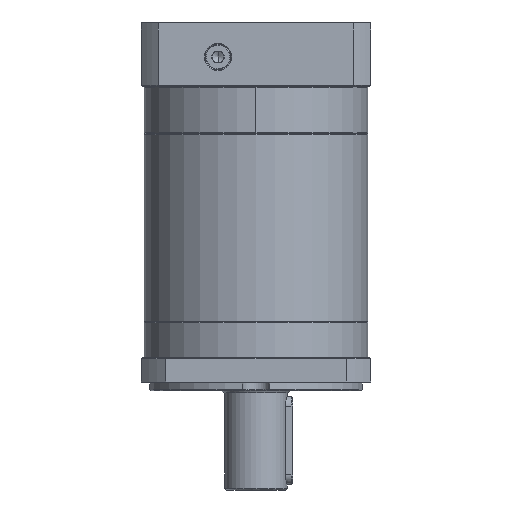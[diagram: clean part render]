
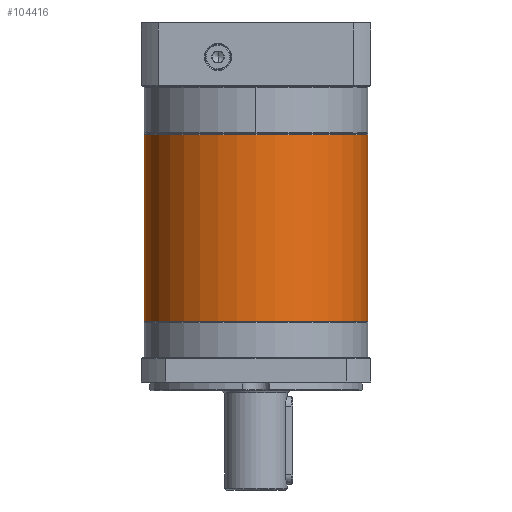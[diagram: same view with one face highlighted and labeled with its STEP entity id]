
A CAD part, front view. The second image highlights one B-rep face of the part: STEP entity #104416.
In plain terms, the highlighted cylindrical face has radius 57.5 mm (diameter 115 mm), a partial arc.
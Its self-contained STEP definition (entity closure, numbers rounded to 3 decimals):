
#1474 = CARTESIAN_POINT ( 'NONE',  ( -32.033, -2.282, 188.502 ) ) ;
#1572 = LINE ( 'NONE', #4935, #107431 ) ;
#3954 = VERTEX_POINT ( 'NONE', #76225 ) ;
#4935 = CARTESIAN_POINT ( 'NONE',  ( -89.533, -2.282, 189.002 ) ) ;
#6534 = DIRECTION ( 'NONE',  ( -1., 0., 0. ) ) ;
#7044 = CARTESIAN_POINT ( 'NONE',  ( -32.033, -2.282, 188.502 ) ) ;
#13953 = ORIENTED_EDGE ( 'NONE', *, *, #130346, .T. ) ;
#16738 = CARTESIAN_POINT ( 'NONE',  ( 25.467, -2.282, 189.002 ) ) ;
#16834 = VERTEX_POINT ( 'NONE', #77995 ) ;
#19181 = VECTOR ( 'NONE', #78531, 1000. ) ;
#25666 = LINE ( 'NONE', #16738, #19181 ) ;
#26885 = DIRECTION ( 'NONE',  ( 0., 0., -1. ) ) ;
#32779 = VERTEX_POINT ( 'NONE', #53929 ) ;
#34393 = EDGE_CURVE ( 'NONE', #16834, #32779, #113226, .T. ) ;
#35408 = AXIS2_PLACEMENT_3D ( 'NONE', #1474, #42259, #82561 ) ;
#40806 = ORIENTED_EDGE ( 'NONE', *, *, #100744, .T. ) ;
#41837 = DIRECTION ( 'NONE',  ( 0., 0., -1. ) ) ;
#42259 = DIRECTION ( 'NONE',  ( 0., 0., -1. ) ) ;
#42265 = DIRECTION ( 'NONE',  ( -1., 0., 0. ) ) ;
#42720 = CARTESIAN_POINT ( 'NONE',  ( -32.033, -2.282, 189.002 ) ) ;
#43065 = CIRCLE ( 'NONE', #70441, 57.5 ) ;
#47402 = DIRECTION ( 'NONE',  ( 0., 0., 1. ) ) ;
#53929 = CARTESIAN_POINT ( 'NONE',  ( -89.533, -2.282, 188.502 ) ) ;
#61021 = FACE_OUTER_BOUND ( 'NONE', #110907, .T. ) ;
#62420 = AXIS2_PLACEMENT_3D ( 'NONE', #42720, #41837, #42265 ) ;
#70353 = VERTEX_POINT ( 'NONE', #112127 ) ;
#70441 = AXIS2_PLACEMENT_3D ( 'NONE', #7044, #119557, #129060 ) ;
#70911 = EDGE_CURVE ( 'NONE', #121170, #70353, #109660, .T. ) ;
#76225 = CARTESIAN_POINT ( 'NONE',  ( 25.467, -2.282, 188.502 ) ) ;
#77995 = CARTESIAN_POINT ( 'NONE',  ( -32.033, -59.782, 188.502 ) ) ;
#78531 = DIRECTION ( 'NONE',  ( 0., 0., -1. ) ) ;
#82432 = AXIS2_PLACEMENT_3D ( 'NONE', #108762, #47402, #6534 ) ;
#82561 = DIRECTION ( 'NONE',  ( -1., 0., 0. ) ) ;
#100744 = EDGE_CURVE ( 'NONE', #3954, #16834, #43065, .T. ) ;
#104416 = ADVANCED_FACE ( 'NONE', ( #61021 ), #107485, .T. ) ;
#104737 = CARTESIAN_POINT ( 'NONE',  ( -89.533, -2.282, 92.791 ) ) ;
#107431 = VECTOR ( 'NONE', #26885, 1000. ) ;
#107485 = CYLINDRICAL_SURFACE ( 'NONE', #62420, 57.5 ) ;
#108762 = CARTESIAN_POINT ( 'NONE',  ( -32.033, -2.282, 92.791 ) ) ;
#109660 = CIRCLE ( 'NONE', #82432, 57.5 ) ;
#109865 = ORIENTED_EDGE ( 'NONE', *, *, #70911, .T. ) ;
#110907 = EDGE_LOOP ( 'NONE', ( #124044, #40806, #118974, #13953, #109865 ) ) ;
#112127 = CARTESIAN_POINT ( 'NONE',  ( 25.467, -2.282, 92.791 ) ) ;
#113226 = CIRCLE ( 'NONE', #35408, 57.5 ) ;
#118974 = ORIENTED_EDGE ( 'NONE', *, *, #34393, .T. ) ;
#119557 = DIRECTION ( 'NONE',  ( 0., 0., -1. ) ) ;
#121170 = VERTEX_POINT ( 'NONE', #104737 ) ;
#124044 = ORIENTED_EDGE ( 'NONE', *, *, #126169, .F. ) ;
#126169 = EDGE_CURVE ( 'NONE', #3954, #70353, #25666, .T. ) ;
#129060 = DIRECTION ( 'NONE',  ( -1., 0., 0. ) ) ;
#130346 = EDGE_CURVE ( 'NONE', #32779, #121170, #1572, .T. ) ;
